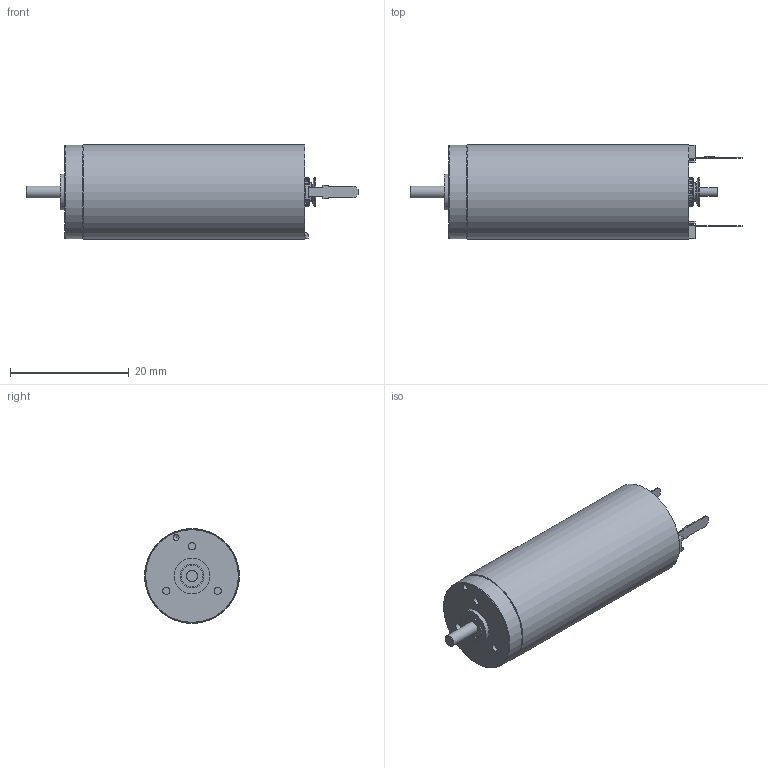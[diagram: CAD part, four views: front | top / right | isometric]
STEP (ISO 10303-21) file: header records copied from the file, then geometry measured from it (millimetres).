
FILE_DESCRIPTION(/* description */ (''),/* implementation_level */ '2;1');
FILE_NAME(/* name */ 'C:\Users\raffaele\Downloads\Projects\E&D\ipt-to-step-conversion\IPT to STP\16DC40N-G.stp',/* time_stamp */ '2021-04-07T16:40:25+02:00',/* author */ ('AOM'),/* organization */ (''),/* preprocessor_version */ 'ST-DEVELOPER v18.1',/* originating_system */ 'Autodesk Inventor 2021',/* authorisation */ '');
FILE_SCHEMA (('AUTOMOTIVE_DESIGN { 1 0 10303 214 3 1 1 }'));
Length unit declared in the file: millimetre
Products named in the file (1): DCX 16 L - 16DC40N-PM_G
Bounding box: 55.9 x 16 x 16 mm (x, y, z)
Volume: 3395 mm3; surface area: 5311.8 mm2
Topology: 9 solids, 11 shells, 589 faces, 1567 edges, 1029 vertices
Faces by surface type: plane 299, cylinder 245, cone 20, bspline 18, torus 6, sphere 1
Full cylindrical faces by diameter (mm): 0.4 x2, 0.6 x1, 0.8 x4, 1 x1, 1.2 x2, 1.221 x4, 1.5 x4, 2 x3, 3.2 x1, 3.65 x1, 4 x1, 4.4 x1, 4.5 x1, 4.6 x1, 4.9 x1, 5 x1, 6 x2, 7 x1, 15 x2, 15.1 x1, 15.8 x1, 16 x1
Entity records: 19352 total; most frequent: CARTESIAN_POINT 4073, ORIENTED_EDGE 3132, DIRECTION 3032, EDGE_CURVE 1566, AXIS2_PLACEMENT_3D 1099, VERTEX_POINT 1029, LINE 834, VECTOR 834
